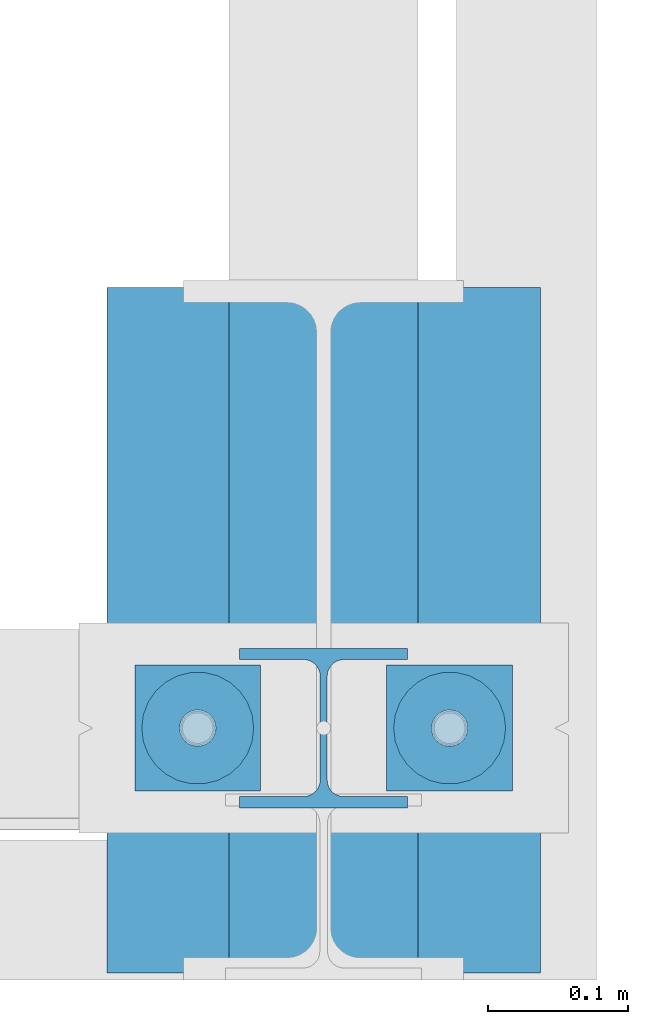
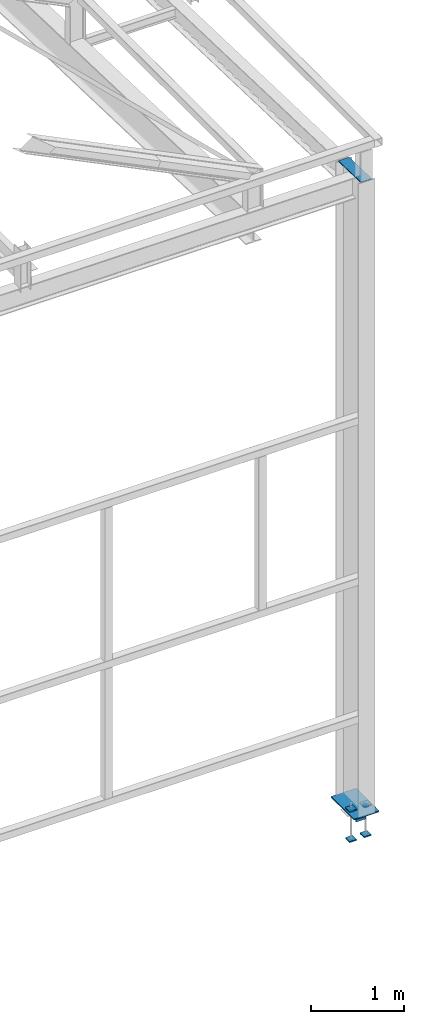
# One storey, part 89 of 123: 7 discrete accessories, 3 mechanical fasteners, 3 elements without a shape of their own.
"""IFC2X3 building model written with IfcOpenShell, lengths in millimetres."""

from ifc_helpers import new_model, si_unit, frame, origin_with_axes, origin_2d_with_axis, place, context, subcontext, project, spatial, polyline, circle, i_section, outline, extrude, source, transform, mapped, material, type_object, element, aggregate, save


model = new_model("IFC2X3")

# Units and contexts
model_context = context("Model", 3, precision=1e-05, world=origin_with_axes())
body_context = subcontext(model_context, "Body", "Model", "MODEL_VIEW")
ifc_project = project(units=[si_unit("LENGTHUNIT", "METRE", prefix="MILLI"), si_unit("AREAUNIT", "SQUARE_METRE"), si_unit("VOLUMEUNIT", "CUBIC_METRE"), si_unit("MASSUNIT", "GRAM", prefix="KILO"), si_unit("TIMEUNIT", "SECOND"), si_unit("PLANEANGLEUNIT", "RADIAN"), si_unit("SOLIDANGLEUNIT", "STERADIAN"), si_unit("THERMODYNAMICTEMPERATUREUNIT", "DEGREE_CELSIUS"), si_unit("LUMINOUSINTENSITYUNIT", "LUMEN")], contexts=[model_context])

# Site, building, storey
site_placement = place(None, origin_with_axes())
site = spatial("IfcSite", under=ifc_project, at=site_placement, Name="Undefined", CompositionType="ELEMENT")
building_placement = place(site_placement, origin_with_axes())
building = spatial("IfcBuilding", under=site, at=building_placement, Name="Undefined", CompositionType="ELEMENT")
storey_placement = place(building_placement, origin_with_axes())
storey = spatial("IfcBuildingStorey", under=building, at=storey_placement, Name="Undefined", CompositionType="ELEMENT", Elevation=0.0)

# Assembly, discrete accessory
assembly_1_placement = place(storey_placement, origin_with_axes())
assembly_1 = element("IfcElementAssembly", 1, at=assembly_1_placement, inside=storey, Name="Steel Assembly", AssemblyPlace="NOTDEFINED", PredefinedType="RIGID_FRAME")
ifc_material_1 = material(Name="STEEL/S275-E28")
discrete_accessory_type_1 = type_object("IfcDiscreteAccessoryType", Name="BECHE")
discrete_accessory_1_placement = place(assembly_1_placement, frame((39630.0000000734, 0.0, -260.0), z_axis=(0.0, -1.0, 0.0), x_axis=(0.0, 0.0, -1.0)))
discrete_accessory_1 = element("IfcDiscreteAccessory", 2, at=discrete_accessory_1_placement, type_object=discrete_accessory_type_1, material=ifc_material_1, Name="BECHE", ObjectType="HEA120", context=body_context, shape_type="SweptSolid", body=[
    extrude(i_section(OverallWidth=120.0, OverallDepth=114.0, WebThickness=5.0, FlangeThickness=8.0, FilletRadius=12.0, at=origin_2d_with_axis()), frame((120.0, 0.0, 0.0), z_axis=(-1.0, 0.0, 0.0), x_axis=(0.0, -1.0, 0.0)), (0.0, 0.0, 1.0), 120.0),
])

# Assembly, mechanical fasteners
assembly_2_placement = place(storey_placement, origin_with_axes())
assembly_2 = element("IfcElementAssembly", 3, at=assembly_2_placement, inside=storey, Name="Steel Assembly", AssemblyPlace="NOTDEFINED", PredefinedType="RIGID_FRAME")
ifc_material_2 = material(Name="6.8")
discrete_accessory_type_2 = type_object("IfcDiscreteAccessoryType", Name="Bolt assembly")
shared_shape_1 = source(origin_with_axes(), body_context, "Body", "SweptSolid", [
    extrude(circle(Radius=40.0, at=origin_2d_with_axis()), frame((0.0, -15.0, 0.0), z_axis=(0.0, 1.0, 0.0), x_axis=(1.0, 0.0, 0.0)), (0.0, 0.0, 1.0), 15.1),
])
mechanical_fastener_1_placement = place(assembly_2_placement, frame((39539.9971504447, 0.0, -250.0), z_axis=(0.0, 1.0, 0.0), x_axis=(1.0, 0.0, 0.0)))
mechanical_fastener_1 = element("IfcMechanicalFastener", 4, at=mechanical_fastener_1_placement, type_object=discrete_accessory_type_2, material=ifc_material_2, Name="Bolt assembly", NominalDiameter=30.0, NominalLength=15.0, context=body_context, shape_type="MappedRepresentation", body=[
    mapped(shared_shape_1, transform((0.0, 0.0, 0.0))),
])
mechanical_fastener_2_placement = place(assembly_2_placement, frame((39719.9971504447, 0.0, -250.0), z_axis=(0.0, -1.0, 0.0), x_axis=(-1.0, 0.0, 0.0)))
mechanical_fastener_2 = element("IfcMechanicalFastener", 5, at=mechanical_fastener_2_placement, type_object=discrete_accessory_type_2, material=ifc_material_2, Name="Bolt assembly", NominalDiameter=30.0, NominalLength=15.0, context=body_context, shape_type="MappedRepresentation", body=[
    mapped(shared_shape_1, transform((0.0, 0.0, 0.0))),
])

# Assembly, discrete accessory
assembly_3_placement = place(storey_placement, origin_with_axes())
assembly_3 = element("IfcElementAssembly", 6, at=assembly_3_placement, inside=storey, Name="Steel Assembly", AssemblyPlace="NOTDEFINED", PredefinedType="RIGID_FRAME")
ifc_material_3 = material(Name="STEEL/S235-E24")
discrete_accessory_type_3 = type_object("IfcDiscreteAccessoryType", Name="COIFFE")
discrete_accessory_2_placement = place(assembly_3_placement, frame((39629.9999999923, 312.157053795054, 8035.18760098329), z_axis=(0.0, -0.0314107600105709, -0.999506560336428), x_axis=(0.0, -0.999506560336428, 0.0314107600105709)))
discrete_accessory_2 = element("IfcDiscreteAccessory", 7, at=discrete_accessory_2_placement, type_object=discrete_accessory_type_3, material=ifc_material_3, Name="COIFFE", ObjectType="PL10*135", context=body_context, shape_type="SweptSolid", body=[
    extrude(outline(polyline([(484.238942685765, 67.5), (484.238942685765, -67.5), (-2.8421709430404e-14, -67.5), (-2.8421709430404e-14, 67.5), (484.238942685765, 67.5)])), frame((0.0, 0.0, -5.0), z_axis=(0.0, 0.0, 1.0), x_axis=(1.0, 0.0, 0.0)), (0.0, 0.0, 1.0), 10.0),
])
aggregate(assembly_3, [discrete_accessory_2])

# Discrete accessory
discrete_accessory_type_4 = type_object("IfcDiscreteAccessoryType", Name="PLATINE")
discrete_accessory_3_placement = place(assembly_2_placement, frame((39784.9971504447, 70.0, -242.5), z_axis=(0.0, 0.0, 1.0), x_axis=(-1.0, 0.0, 0.0)))
discrete_accessory_3 = element("IfcDiscreteAccessory", 8, at=discrete_accessory_3_placement, type_object=discrete_accessory_type_4, material=ifc_material_3, Name="PLATINE", ObjectType="PL15*490", context=body_context, shape_type="SweptSolid", body=[
    extrude(outline(polyline([(310.0, 245.0), (310.0, -245.0), (0.0, -245.0), (0.0, 245.0), (310.0, 245.0)])), frame((0.0, 0.0, -7.5), z_axis=(0.0, 0.0, 1.0), x_axis=(1.0, 0.0, 0.0)), (0.0, 0.0, 1.0), 15.0),
])

aggregate(assembly_2, [mechanical_fastener_1, mechanical_fastener_2, discrete_accessory_3])

# Mechanical fastener
shared_shape_2 = source(origin_with_axes(), body_context, "Body", "SweptSolid", [
    extrude(circle(Radius=13.0, at=origin_2d_with_axis()), frame((0.0, 0.0, 0.0), z_axis=(0.0, 1.0, 0.0), x_axis=(1.0, 0.0, 0.0)), (0.0, 0.0, 1.0), 10.1),
])
mechanical_fastener_3_placement = place(assembly_1_placement, frame((39630.0000000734, 0.0, -250.0), z_axis=(-1.0, 0.0, 0.0), x_axis=(0.0, 1.0, 0.0)))
mechanical_fastener_3 = element("IfcMechanicalFastener", 9, at=mechanical_fastener_3_placement, type_object=discrete_accessory_type_2, material=ifc_material_2, Name="Bolt assembly", NominalDiameter=24.0, NominalLength=10.0, context=body_context, shape_type="MappedRepresentation", body=[
    mapped(shared_shape_2, transform((-4.00177668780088e-11, 0.0, -90.0))),
    mapped(shared_shape_2, transform((4.00177668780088e-11, 0.0, 90.0))),
])

# Discrete accessory
discrete_accessory_type_5 = type_object("IfcDiscreteAccessoryType", Name="PLAQUETTE")
discrete_accessory_4_placement = place(assembly_1_placement, frame((39584.9971504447, -45.0, -227.5), z_axis=(0.0, 0.0, 1.0), x_axis=(0.0, 1.0, 0.0)))
discrete_accessory_4 = element("IfcDiscreteAccessory", 10, at=discrete_accessory_4_placement, type_object=discrete_accessory_type_5, material=ifc_material_3, Name="PLAQUETTE", ObjectType="PL15*90", context=body_context, shape_type="SweptSolid", body=[
    extrude(outline(polyline([(0.0, 0.0), (90.0, 0.0), (90.0, 90.0), (0.0, 90.0), (0.0, 0.0)])), frame((0.0, 0.0, -7.5), z_axis=(0.0, 0.0, 1.0), x_axis=(1.0, 0.0, 0.0)), (0.0, 0.0, 1.0), 15.0),
])

discrete_accessory_5_placement = place(assembly_1_placement, frame((39764.9971504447, -45.0, -227.5), z_axis=(0.0, 0.0, 1.0), x_axis=(0.0, 1.0, 0.0)))
discrete_accessory_5 = element("IfcDiscreteAccessory", 11, at=discrete_accessory_5_placement, type_object=discrete_accessory_type_5, material=ifc_material_3, Name="PLAQUETTE", ObjectType="PL15*90", context=body_context, shape_type="SweptSolid", body=[
    extrude(outline(polyline([(0.0, 0.0), (90.0, 0.0), (90.0, 90.0), (0.0, 90.0), (0.0, 0.0)])), frame((0.0, 0.0, -7.5), z_axis=(0.0, 0.0, 1.0), x_axis=(1.0, 0.0, 0.0)), (0.0, 0.0, 1.0), 15.0),
])

discrete_accessory_6_placement = place(assembly_1_placement, frame((39584.9971504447, -45.0, -622.5), z_axis=(0.0, 0.0, 1.0), x_axis=(0.0, 1.0, 0.0)))
discrete_accessory_6 = element("IfcDiscreteAccessory", 12, at=discrete_accessory_6_placement, type_object=discrete_accessory_type_5, material=ifc_material_3, Name="PLAQUETTE", ObjectType="PL15*90", context=body_context, shape_type="SweptSolid", body=[
    extrude(outline(polyline([(0.0, 0.0), (90.0, 0.0), (90.0, 90.0), (0.0, 90.0), (0.0, 0.0)])), frame((0.0, 0.0, -7.5), z_axis=(0.0, 0.0, 1.0), x_axis=(1.0, 0.0, 0.0)), (0.0, 0.0, 1.0), 15.0),
])

discrete_accessory_7_placement = place(assembly_1_placement, frame((39764.9971504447, -45.0, -622.5), z_axis=(0.0, 0.0, 1.0), x_axis=(0.0, 1.0, 0.0)))
discrete_accessory_7 = element("IfcDiscreteAccessory", 13, at=discrete_accessory_7_placement, type_object=discrete_accessory_type_5, material=ifc_material_3, Name="PLAQUETTE", ObjectType="PL15*90", context=body_context, shape_type="SweptSolid", body=[
    extrude(outline(polyline([(0.0, 0.0), (90.0, 0.0), (90.0, 90.0), (0.0, 90.0), (0.0, 0.0)])), frame((0.0, 0.0, -7.5), z_axis=(0.0, 0.0, 1.0), x_axis=(1.0, 0.0, 0.0)), (0.0, 0.0, 1.0), 15.0),
])

aggregate(assembly_1, [discrete_accessory_1, mechanical_fastener_3, discrete_accessory_4, discrete_accessory_5, discrete_accessory_6, discrete_accessory_7])

save(model, "model.ifc")
